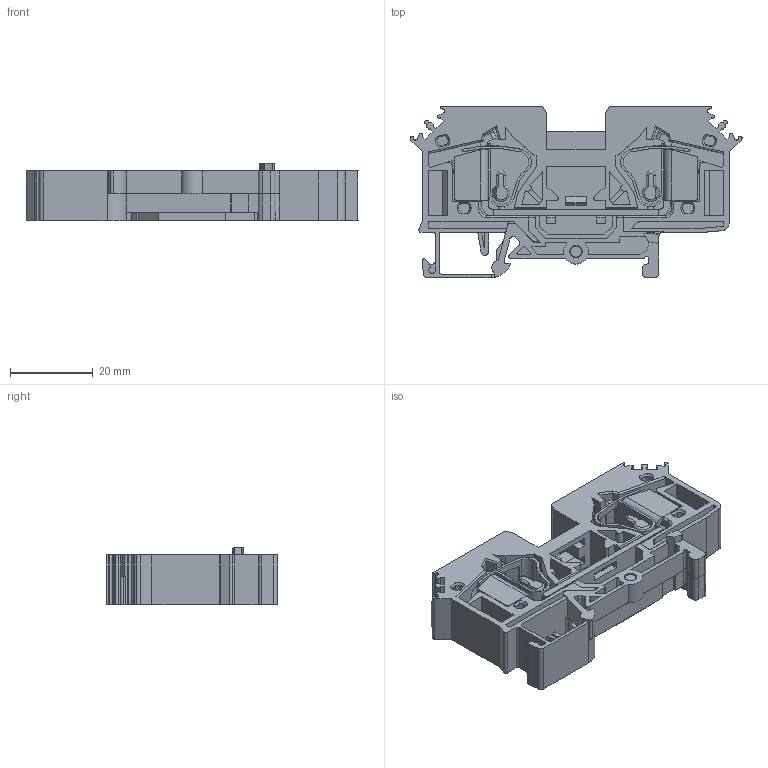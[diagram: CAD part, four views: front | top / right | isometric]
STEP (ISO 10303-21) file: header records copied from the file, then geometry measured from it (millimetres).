
FILE_DESCRIPTION (( 'STEP AP203' ), '1' );
FILE_NAME ('ﾊﾏﾐ1-16ﾂ-2ﾂﾓ.STEP', '2019-03-04T11:17:01', ( '' ), ( '' ), 'SwSTEP 2.0', 'SolidWorks 2016', '' );
FILE_SCHEMA (( 'CONFIG_CONTROL_DESIGN' ));
Length unit declared in the file: millimetre
Products named in the file (1): ﾊﾏﾐ1-16ﾂ-2ﾂﾓ
Bounding box: 80.1 x 41.3 x 13.8 mm (x, y, z)
Volume: 16192.6 mm3; surface area: 21220.1 mm2
Topology: 5 solids, 5 shells, 835 faces, 2314 edges, 1519 vertices
Faces by surface type: plane 520, cylinder 260, cone 43, torus 10, sphere 2
Full cylindrical faces by diameter (mm): 1.3 x1, 1.5 x2, 1.6 x1, 1.8 x1, 1.9 x1, 2 x2, 2.4 x1, 2.5 x1, 2.55 x1, 2.65 x1, 2.7 x2, 2.95 x2, 3.1 x1, 3.2 x1, 3.4 x2, 9.5 x2
Entity records: 26459 total; most frequent: CARTESIAN_POINT 5136, ORIENTED_EDGE 4492, DIRECTION 4307, EDGE_CURVE 2246, LINE 1573, VECTOR 1573, VERTEX_POINT 1501, AXIS2_PLACEMENT_3D 1367
